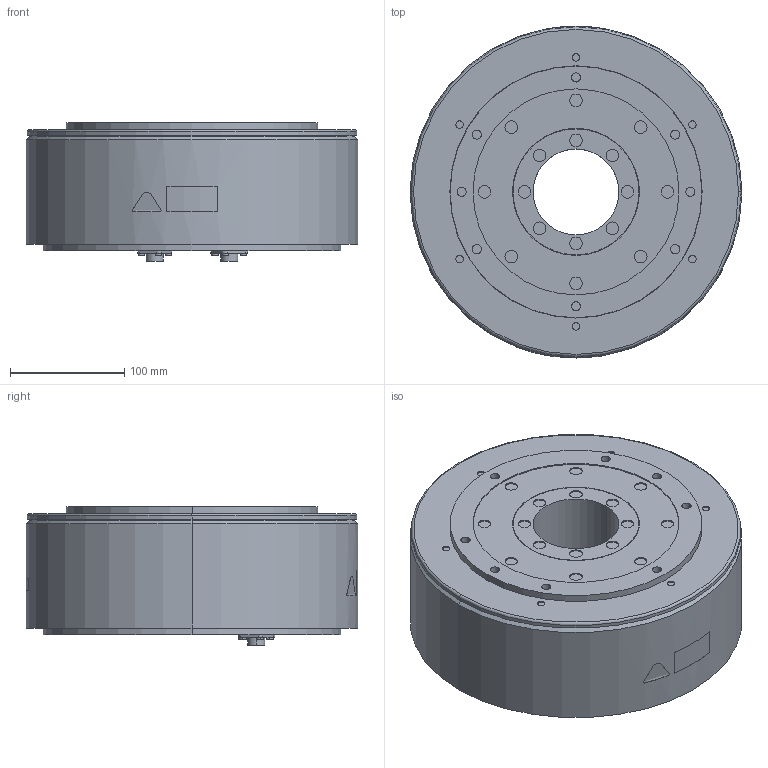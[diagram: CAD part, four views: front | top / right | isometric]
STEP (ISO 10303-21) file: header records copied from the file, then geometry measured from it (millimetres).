
FILE_DESCRIPTION (( 'STEP AP203' ), '1' );
FILE_NAME ('sgm7e_35e_a1_.STEP', '2016-03-17T07:14:55', ( '' ), ( '' ), 'SwSTEP 2.0', 'SolidWorks 2010', '' );
FILE_SCHEMA (( 'CONFIG_CONTROL_DESIGN' ));
Length unit declared in the file: millimetre
Products named in the file (1): sgm7e_35e_a1_
Bounding box: 290 x 290 x 121.1 mm (x, y, z)
Volume: 6611652.6 mm3; surface area: 261709.8 mm2
Topology: 1 solids, 1 shells, 336 faces, 730 edges, 484 vertices
Faces by surface type: cylinder 189, plane 136, bspline 5, cone 4, torus 2
Entity records: 9737 total; most frequent: CARTESIAN_POINT 1912, DIRECTION 1778, ORIENTED_EDGE 1460, AXIS2_PLACEMENT_3D 732, EDGE_CURVE 730, VERTEX_POINT 484, EDGE_LOOP 426, CIRCLE 400
